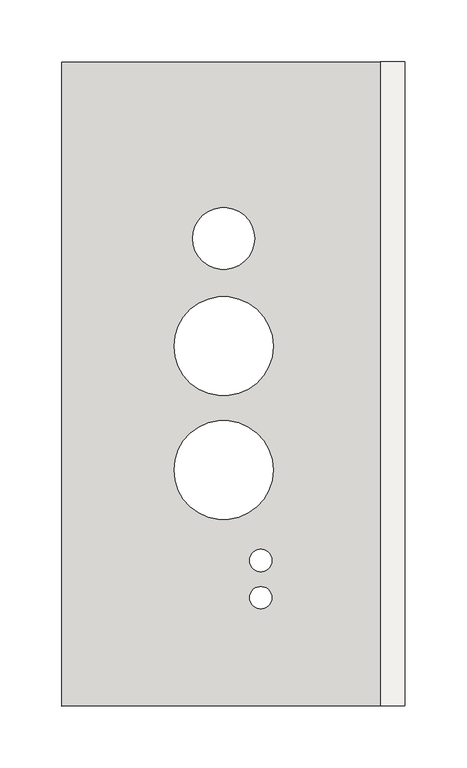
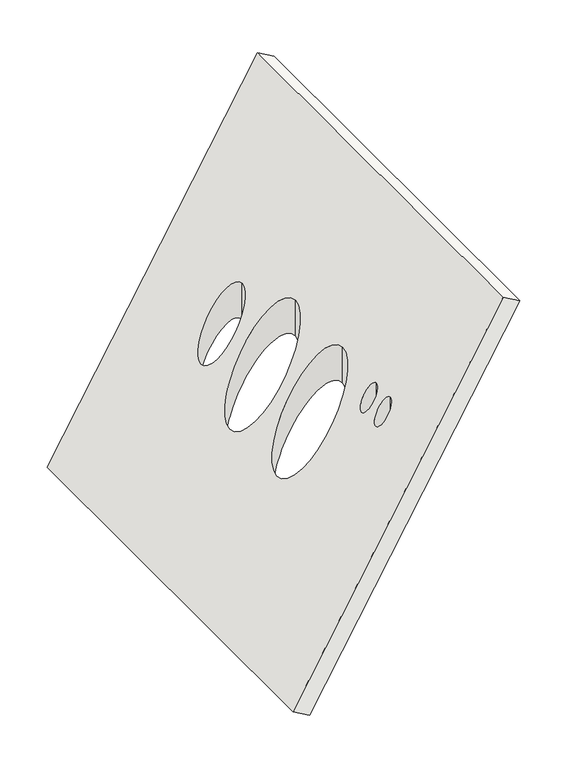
"""IFC4 building model written with IfcOpenShell, lengths in millimetres: covering geometry, NLRS_50_GM_WPB_Delta Discovery Air_roofboard-SH_M&G : roofboard DDA-XL."""

from ifc_helpers import new_model, si_unit, frame, origin, place, context, project, spatial, polyline, ellipse_curve, source, transform, mapped, element, save
from ifc_brep_helpers import plane_surface, revolved_surface, advanced_brep


def covering_0022e7d6(model_context):
    return source(origin(), model_context, "Body", "AdvancedBrep", [
        advanced_brep(
        [(-108.5814157, -260.0, -234.0685288), (-108.5814157, 260.0, -234.0685288), (148.4185843, 260.0, 211.0685288), (148.4185843, -260.0, 211.0685288), (23.0, -172.5, -6.1628314), (41.0, -172.5, 25.0140831), (23.0, -142.5, -6.1628314), (41.0, -142.5, 25.0140831), (-38.0, 30.5, -111.8179307), (42.0, 30.5, 26.7461339), (-23.0, 117.5, -85.8371686), (27.0, 117.5, 0.7653718), (-38.0, -69.5, -111.8179307), (42.0, -69.5, 26.7461339), (-128.5, -260.0, -222.5685288), (128.5, -260.0, 222.5685288), (128.5, 260.0, 222.5685288), (-128.5, 260.0, -222.5685288), (41.0, -172.5, 71.0140831), (23.0, -172.5, 39.8371686), (41.0, -142.5, 71.0140831), (23.0, -142.5, 39.8371686), (42.0, 30.5, 72.7461339), (-38.0, 30.5, -65.8179307), (27.0, 117.5, 46.7653718), (-23.0, 117.5, -39.8371686), (42.0, -69.5, 72.7461339), (-38.0, -69.5, -65.8179307)],
        [
            (0, 1),
            (1, 2),
            (2, 3),
            (3, 0),
            (4, 5, ellipse_curve(frame((32.0, -172.5, 9.4256258), z_axis=(-0.8660254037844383, 0.0, 0.5000000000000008), x_axis=(0.5000000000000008, 0.0, 0.8660254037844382)), 18.0, 9.0)),
            (5, 4, ellipse_curve(frame((32.0, -172.5, 9.4256258), z_axis=(-0.8660254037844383, 0.0, 0.5000000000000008), x_axis=(0.5000000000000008, 0.0, 0.8660254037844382)), 18.0, 9.0)),
            (6, 7, ellipse_curve(frame((32.0, -142.5, 9.4256258), z_axis=(-0.8660254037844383, 0.0, 0.5000000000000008), x_axis=(0.5000000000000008, 0.0, 0.8660254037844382)), 18.0, 9.0)),
            (7, 6, ellipse_curve(frame((32.0, -142.5, 9.4256258), z_axis=(-0.8660254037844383, 0.0, 0.5000000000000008), x_axis=(0.5000000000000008, 0.0, 0.8660254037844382)), 18.0, 9.0)),
            (8, 9, ellipse_curve(frame((2.0, 30.5, -42.5358984), z_axis=(-0.8660254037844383, 0.0, 0.5000000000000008), x_axis=(0.5000000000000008, 0.0, 0.8660254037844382)), 80.0, 40.0)),
            (9, 8, ellipse_curve(frame((2.0, 30.5, -42.5358984), z_axis=(-0.8660254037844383, 0.0, 0.5000000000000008), x_axis=(0.5000000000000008, 0.0, 0.8660254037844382)), 80.0, 40.0)),
            (10, 11, ellipse_curve(frame((2.0, 117.5, -42.5358984), z_axis=(-0.8660254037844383, 0.0, 0.5000000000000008), x_axis=(0.5000000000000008, 0.0, 0.8660254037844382)), 50.0, 25.0)),
            (11, 10, ellipse_curve(frame((2.0, 117.5, -42.5358984), z_axis=(-0.8660254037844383, 0.0, 0.5000000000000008), x_axis=(0.5000000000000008, 0.0, 0.8660254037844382)), 50.0, 25.0)),
            (12, 13, ellipse_curve(frame((2.0, -69.5, -42.5358984), z_axis=(-0.8660254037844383, 0.0, 0.5000000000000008), x_axis=(0.5000000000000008, 0.0, 0.8660254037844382)), 80.0, 40.0)),
            (13, 12, ellipse_curve(frame((2.0, -69.5, -42.5358984), z_axis=(-0.8660254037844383, 0.0, 0.5000000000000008), x_axis=(0.5000000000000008, 0.0, 0.8660254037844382)), 80.0, 40.0)),
            (14, 15),
            (15, 16),
            (16, 17),
            (17, 14),
            (18, 19, ellipse_curve(frame((32.0, -172.5, 55.4256258), z_axis=(0.8660254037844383, 0.0, -0.5000000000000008), x_axis=(0.5000000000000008, 0.0, 0.8660254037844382)), 18.0, 9.0)),
            (19, 18, ellipse_curve(frame((32.0, -172.5, 55.4256258), z_axis=(0.8660254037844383, 0.0, -0.5000000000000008), x_axis=(0.5000000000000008, 0.0, 0.8660254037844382)), 18.0, 9.0)),
            (20, 21, ellipse_curve(frame((32.0, -142.5, 55.4256258), z_axis=(0.8660254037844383, 0.0, -0.5000000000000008), x_axis=(0.5000000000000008, 0.0, 0.8660254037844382)), 18.0, 9.0)),
            (21, 20, ellipse_curve(frame((32.0, -142.5, 55.4256258), z_axis=(0.8660254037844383, 0.0, -0.5000000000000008), x_axis=(0.5000000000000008, 0.0, 0.8660254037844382)), 18.0, 9.0)),
            (22, 23, ellipse_curve(frame((2.0, 30.5, 3.4641016), z_axis=(0.8660254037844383, 0.0, -0.5000000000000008), x_axis=(0.5000000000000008, 0.0, 0.8660254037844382)), 80.0, 40.0)),
            (23, 22, ellipse_curve(frame((2.0, 30.5, 3.4641016), z_axis=(0.8660254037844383, 0.0, -0.5000000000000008), x_axis=(0.5000000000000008, 0.0, 0.8660254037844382)), 80.0, 40.0)),
            (24, 25, ellipse_curve(frame((2.0, 117.5, 3.4641016), z_axis=(0.8660254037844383, 0.0, -0.5000000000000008), x_axis=(0.5000000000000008, 0.0, 0.8660254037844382)), 50.0, 25.0)),
            (25, 24, ellipse_curve(frame((2.0, 117.5, 3.4641016), z_axis=(0.8660254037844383, 0.0, -0.5000000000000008), x_axis=(0.5000000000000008, 0.0, 0.8660254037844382)), 50.0, 25.0)),
            (26, 27, ellipse_curve(frame((2.0, -69.5, 3.4641016), z_axis=(0.8660254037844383, 0.0, -0.5000000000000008), x_axis=(0.5000000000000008, 0.0, 0.8660254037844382)), 80.0, 40.0)),
            (27, 26, ellipse_curve(frame((2.0, -69.5, 3.4641016), z_axis=(0.8660254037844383, 0.0, -0.5000000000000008), x_axis=(0.5000000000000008, 0.0, 0.8660254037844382)), 80.0, 40.0)),
            (3, 15),
            (14, 0),
            (2, 16),
            (1, 17),
            (4, 19),
            (18, 5),
            (6, 21),
            (20, 7),
            (8, 23),
            (22, 9),
            (10, 25),
            (24, 11),
            (12, 27),
            (26, 13),
        ],
        [
            plane_surface(frame((-108.5814157, -260.0, -234.0685288), z_axis=(0.8660254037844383, 0.0, -0.5000000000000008), x_axis=(-0.5000000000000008, 0.0, -0.8660254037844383))),
            plane_surface(frame((-128.5, -260.0, -222.5685288), z_axis=(-0.8660254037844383, 0.0, 0.5000000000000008), x_axis=(0.5000000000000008, 0.0, 0.8660254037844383))),
            plane_surface(frame((-128.5, -260.0, -222.5685288), z_axis=(0.0, -1.0, 0.0), x_axis=(0.8660254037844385, 0.0, -0.5000000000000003))),
            plane_surface(frame((128.5, -260.0, 222.5685288), z_axis=(0.5000000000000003, 0.0, 0.8660254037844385), x_axis=(0.8660254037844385, 0.0, -0.5000000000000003))),
            plane_surface(frame((128.5, 260.0, 222.5685288), z_axis=(0.0, 1.0, 0.0), x_axis=(0.8660254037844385, 0.0, -0.5000000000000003))),
            plane_surface(frame((-128.5, 260.0, -222.5685288), z_axis=(-0.5000000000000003, 0.0, -0.8660254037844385), x_axis=(0.8660254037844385, 0.0, -0.5000000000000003))),
            revolved_surface(polyline([(41.0, -172.5, 71.0140831), (41.0, -172.5, -6.1628314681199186)]), (32.0, -172.5, -300.0), (0.0, 0.0, 1.0)),
            revolved_surface(polyline([(41.0, -142.5, 71.0140831), (41.0, -142.5, -6.162831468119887)]), (32.0, -142.5, 0.0), (0.0, 0.0, 1.0)),
            revolved_surface(polyline([(42.0, 30.5, 72.74613390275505), (42.0, 30.5, -111.81793070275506)]), (2.0, 30.5, -300.0), (0.0, 0.0, 1.0)),
            revolved_surface(polyline([(27.0, 117.5, 46.7653718), (27.0, 117.5, -85.8371686)]), (2.0, 117.5, 0.0), (0.0, 0.0, 1.0)),
            revolved_surface(polyline([(42.0, -69.5, 72.74613390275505), (42.0, -69.5, -111.81793070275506)]), (2.0, -69.5, -300.0), (0.0, 0.0, 1.0)),
        ],
        [
            (0, [[1, 2, 3, 4], [5, 6], [7, 8], [9, 10], [11, 12], [13, 14]]),
            (1, [[15, 16, 17, 18], [19, 20], [21, 22], [23, 24], [25, 26], [27, 28]]),
            (2, [[-4, 29, -15, 30]]),
            (3, [[-3, 31, -16, -29]]),
            (4, [[-2, 32, -17, -31]]),
            (5, [[-1, -30, -18, -32]]),
            (6, [[33, -19, 34, -5]]),
            (6, [[-33, -6, -34, -20]]),
            (7, [[35, -21, 36, -7]]),
            (7, [[-35, -8, -36, -22]]),
            (8, [[37, -23, 38, -9]]),
            (8, [[-37, -10, -38, -24]]),
            (9, [[39, -25, 40, -11]]),
            (9, [[-39, -12, -40, -26]]),
            (10, [[41, -27, 42, -13]]),
            (10, [[-41, -14, -42, -28]]),
        ],
    ),
    ])


if __name__ == "__main__":
    model = new_model("IFC4")
    model_context = context("Model", 3, world=origin())
    ifc_project = project(units=[si_unit("LENGTHUNIT", "METRE", prefix="MILLI")], contexts=[model_context])
    site = spatial("IfcSite", under=ifc_project)
    building = spatial("IfcBuilding", under=site)
    placement = place(None, origin())
    covering_shape = covering_0022e7d6(model_context)
    element("IfcCovering", 1, ObjectType="NLRS_50_GM_WPB_Delta Discovery Air_roofboard-SH_M&G : roofboard DDA-XL", at=placement, inside=building, context=model_context, shape_type="MappedRepresentation", body=[
        mapped(covering_shape, transform((0.0, 0.0, 0.0), x_axis=(1.0, 0.0, 0.0), y_axis=(0.0, 1.0, 0.0), z_axis=(0.0, 0.0, 1.0))),
    ])
    save(model, "model.ifc")
